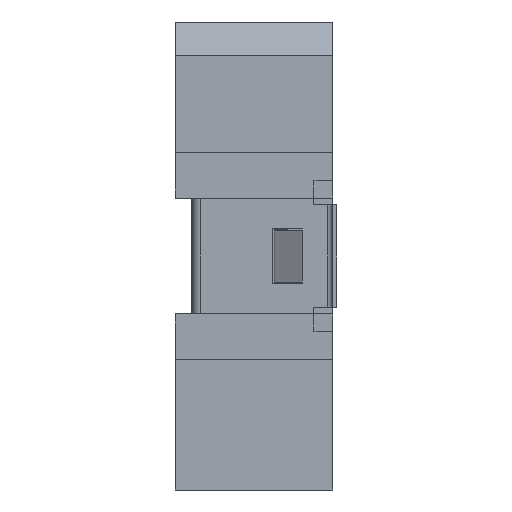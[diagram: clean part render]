
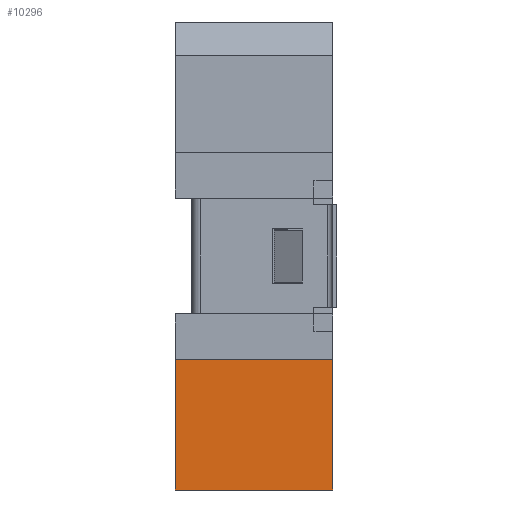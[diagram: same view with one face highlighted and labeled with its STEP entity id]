
A CAD part, left-side view. The second image highlights one B-rep face of the part: STEP entity #10296.
In plain terms, the highlighted planar face has unit normal (-1, 0, 0).
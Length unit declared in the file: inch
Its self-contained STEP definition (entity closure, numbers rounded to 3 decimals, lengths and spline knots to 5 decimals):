
#38 = DIRECTION ( 'NONE',  ( 0., 0., 1. ) ) ;
#71 = AXIS2_PLACEMENT_3D ( 'NONE', #1560, #9628, #2745 ) ;
#182 = ORIENTED_EDGE ( 'NONE', *, *, #4863, .T. ) ;
#1560 = CARTESIAN_POINT ( 'NONE',  ( -0.3385, 0.212, -0.315 ) ) ;
#1746 = VERTEX_POINT ( 'NONE', #9199 ) ;
#2214 = VECTOR ( 'NONE', #38, 39.37008 ) ;
#2710 = EDGE_CURVE ( 'NONE', #3417, #11820, #11386, .T. ) ;
#2745 = DIRECTION ( 'NONE',  ( 0., 0., -1. ) ) ;
#2790 = FACE_OUTER_BOUND ( 'NONE', #3208, .T. ) ;
#3083 = LINE ( 'NONE', #4547, #9186 ) ;
#3208 = EDGE_LOOP ( 'NONE', ( #11278, #5037, #13127, #182 ) ) ;
#3417 = VERTEX_POINT ( 'NONE', #8608 ) ;
#3624 = EDGE_CURVE ( 'NONE', #1746, #13565, #3083, .T. ) ;
#3959 = CARTESIAN_POINT ( 'NONE',  ( -0.3385, 0.212, -0.315 ) ) ;
#4500 = DIRECTION ( 'NONE',  ( 0., 0., 1. ) ) ;
#4547 = CARTESIAN_POINT ( 'NONE',  ( -0.3385, 0., -0.315 ) ) ;
#4863 = EDGE_CURVE ( 'NONE', #3417, #1746, #12077, .T. ) ;
#5037 = ORIENTED_EDGE ( 'NONE', *, *, #5793, .F. ) ;
#5631 = VECTOR ( 'NONE', #10783, 39.37008 ) ;
#5793 = EDGE_CURVE ( 'NONE', #11820, #13565, #6095, .T. ) ;
#5810 = CARTESIAN_POINT ( 'NONE',  ( -0.3385, 0.212, -0.139 ) ) ;
#6095 = LINE ( 'NONE', #5810, #12216 ) ;
#8508 = CARTESIAN_POINT ( 'NONE',  ( -0.3385, 0.212, -0.139 ) ) ;
#8608 = CARTESIAN_POINT ( 'NONE',  ( -0.3385, 0.212, -0.315 ) ) ;
#9186 = VECTOR ( 'NONE', #4500, 39.37008 ) ;
#9199 = CARTESIAN_POINT ( 'NONE',  ( -0.3385, 0., -0.315 ) ) ;
#9628 = DIRECTION ( 'NONE',  ( 1., 0., 0. ) ) ;
#10296 = ADVANCED_FACE ( 'NONE', ( #2790 ), #10736, .F. ) ;
#10736 = PLANE ( 'NONE',  #71 ) ;
#10783 = DIRECTION ( 'NONE',  ( 0., -1., 0. ) ) ;
#11278 = ORIENTED_EDGE ( 'NONE', *, *, #3624, .T. ) ;
#11386 = LINE ( 'NONE', #12629, #2214 ) ;
#11820 = VERTEX_POINT ( 'NONE', #8508 ) ;
#12077 = LINE ( 'NONE', #3959, #5631 ) ;
#12216 = VECTOR ( 'NONE', #13856, 39.37008 ) ;
#12629 = CARTESIAN_POINT ( 'NONE',  ( -0.3385, 0.212, -0.315 ) ) ;
#12715 = CARTESIAN_POINT ( 'NONE',  ( -0.3385, 0., -0.139 ) ) ;
#13127 = ORIENTED_EDGE ( 'NONE', *, *, #2710, .F. ) ;
#13565 = VERTEX_POINT ( 'NONE', #12715 ) ;
#13856 = DIRECTION ( 'NONE',  ( 0., -1., 0. ) ) ;
